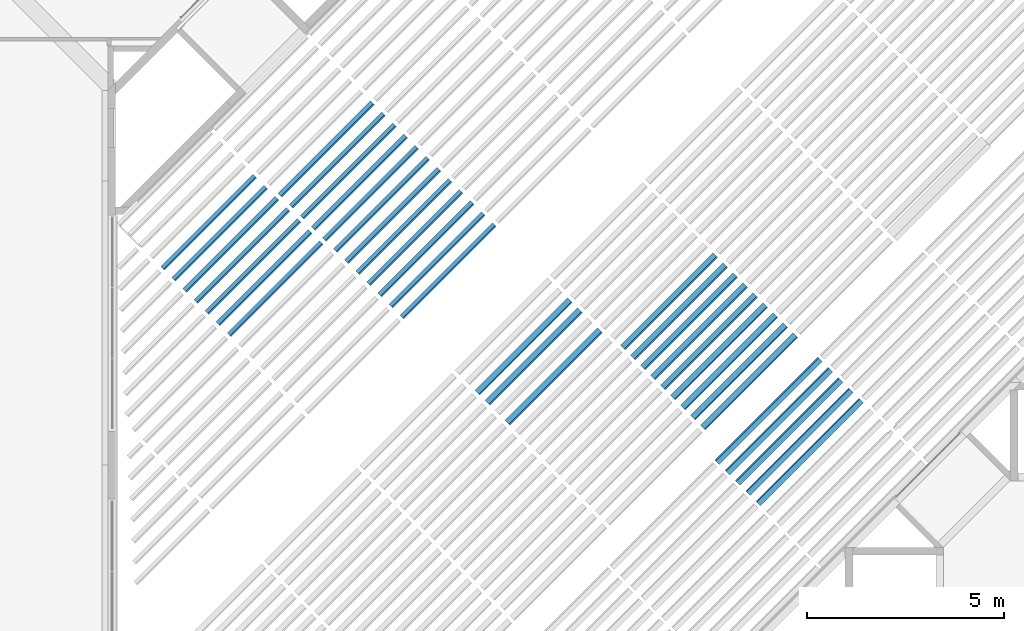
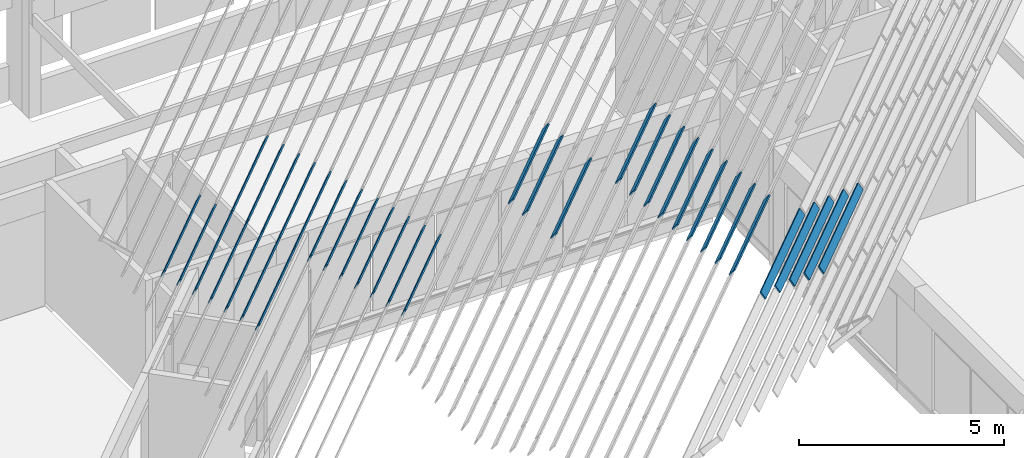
# One storey, part 6 of 37: 36 beams.
"""IFC4X3_ADD2 building model written with IfcOpenShell, lengths in millimetres."""

from ifc_helpers import new_model, si_unit, direction, frame, origin_with_axes, origin_2d_with_axis, place, context, subcontext, project, spatial, rectangle, extrude, source, transform, mapped, material, type_object, type_shapes, element, save


model = new_model("IFC4X3_ADD2")

# Units and contexts
model_context = context("Model", 3, precision=1e-05, world=origin_with_axes(), true_north=direction((0.0, 1.0)))
body_context = subcontext(model_context, "Body", "Model", "MODEL_VIEW")
ifc_project = project(units=[si_unit("LENGTHUNIT", "METRE", prefix="MILLI"), si_unit("AREAUNIT", "SQUARE_METRE"), si_unit("VOLUMEUNIT", "CUBIC_METRE"), si_unit("PLANEANGLEUNIT", "RADIAN"), si_unit("TIMEUNIT", "SECOND"), si_unit("MASSUNIT", "GRAM")], contexts=[model_context])

# Site, building, storey
site_placement = place(None, origin_with_axes())
site = spatial("IfcSite", under=ifc_project, at=site_placement, Name="Site", CompositionType="ELEMENT")
building_placement = place(site_placement, origin_with_axes())
building = spatial("IfcBuilding", under=site, at=building_placement, Name="IFC Building Story")
storey_placement = place(building_placement, frame((0.0, 0.0, 3600.0), z_axis=(0.0, 0.0, 1.0), x_axis=(1.0, 0.0, 0.0)))
storey = spatial("IfcBuildingStorey", under=building, at=storey_placement, Name="010", Elevation=3600.0)

# Beams
ifc_material = material(Name="GVH_i2_naaldhout_generiek")
beam_type_1 = type_object("IfcBeamType", Name="28_SF_hout_rechthoekig_40 x 230_45", PredefinedType="NOTDEFINED")
shared_shape_1 = source(origin_with_axes(), body_context, "Body", "SweptSolid", [
    extrude(rectangle(XDim=3317.28000002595, YDim=40.0000000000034, at=origin_2d_with_axis()), frame((0.8877196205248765, 0.0, -115.0), z_axis=(0.0, 0.0, 1.0), x_axis=(1.0, 0.0, 0.0)), (0.0, 0.0, 1.0), 230.0000000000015),
])
type_shapes(beam_type_1, [shared_shape_1])
beam_1_placement = place(storey_placement, frame((-34554.2999869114, 22473.6563628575, 15017.4992162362), z_axis=(0.311937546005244, -0.311937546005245, 0.8974351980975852), x_axis=(-0.7071067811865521, -0.707106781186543, 0.0)))
element("IfcBeam", 1, at=beam_1_placement, inside=storey, type_object=beam_type_1, material=ifc_material, Name="28_SF_hout_rechthoekig:40 x 230", ObjectType="40 x 230", PredefinedType="BEAM", context=body_context, shape_type="MappedRepresentation", body=[
    mapped(shared_shape_1, transform((0.0, 0.0, 0.0))),
])
beam_type_2 = type_object("IfcBeamType", Name="28_SF_hout_rechthoekig_40 x 230_47", PredefinedType="NOTDEFINED")
shared_shape_2 = source(origin_with_axes(), body_context, "Body", "SweptSolid", [
    extrude(rectangle(XDim=3317.28000002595, YDim=40.0000000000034, at=origin_2d_with_axis()), frame((0.8876332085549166, 0.0, -115.0), z_axis=(0.0, 0.0, 1.0), x_axis=(1.0, 0.0, 0.0)), (0.0, 0.0, 1.0), 230.0000000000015),
])
type_shapes(beam_type_2, [shared_shape_2])
beam_2_placement = place(storey_placement, frame((-34835.2931242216, 22754.6495001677, 15212.8388014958), z_axis=(0.311937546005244, -0.311937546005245, 0.8974351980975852), x_axis=(-0.7071067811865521, -0.707106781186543, 0.0)))
element("IfcBeam", 2, at=beam_2_placement, inside=storey, type_object=beam_type_2, material=ifc_material, Name="28_SF_hout_rechthoekig:40 x 230", ObjectType="40 x 230", PredefinedType="BEAM", context=body_context, shape_type="MappedRepresentation", body=[
    mapped(shared_shape_2, transform((0.0, 0.0, 0.0))),
])
beam_type_3 = type_object("IfcBeamType", Name="28_SF_hout_rechthoekig_40 x 230_49", PredefinedType="NOTDEFINED")
shared_shape_3 = source(origin_with_axes(), body_context, "Body", "SweptSolid", [
    extrude(rectangle(XDim=3317.28000002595, YDim=40.0000000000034, at=origin_2d_with_axis()), frame((0.8875467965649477, 0.0, -115.0), z_axis=(0.0, 0.0, 1.0), x_axis=(1.0, 0.0, 0.0)), (0.0, 0.0, 1.0), 230.0000000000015),
])
type_shapes(beam_type_3, [shared_shape_3])
beam_3_placement = place(storey_placement, frame((-35116.2862615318, 23035.6426374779, 15408.1783867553), z_axis=(0.311937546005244, -0.311937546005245, 0.8974351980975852), x_axis=(-0.7071067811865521, -0.707106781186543, 0.0)))
element("IfcBeam", 3, at=beam_3_placement, inside=storey, type_object=beam_type_3, material=ifc_material, Name="28_SF_hout_rechthoekig:40 x 230", ObjectType="40 x 230", PredefinedType="BEAM", context=body_context, shape_type="MappedRepresentation", body=[
    mapped(shared_shape_3, transform((0.0, 0.0, 0.0))),
])
beam_type_4 = type_object("IfcBeamType", Name="28_SF_hout_rechthoekig_40 x 230_51", PredefinedType="NOTDEFINED")
shared_shape_4 = source(origin_with_axes(), body_context, "Body", "SweptSolid", [
    extrude(rectangle(XDim=3317.28000002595, YDim=40.0000000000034, at=origin_2d_with_axis()), frame((0.8874603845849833, 0.0, -115.0), z_axis=(0.0, 0.0, 1.0), x_axis=(1.0, 0.0, 0.0)), (0.0, 0.0, 1.0), 230.0000000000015),
])
type_shapes(beam_type_4, [shared_shape_4])
beam_4_placement = place(storey_placement, frame((-35397.279398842, 23316.6357747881, 15603.5179720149), z_axis=(0.311937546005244, -0.311937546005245, 0.8974351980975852), x_axis=(-0.7071067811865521, -0.707106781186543, 0.0)))
element("IfcBeam", 4, at=beam_4_placement, inside=storey, type_object=beam_type_4, material=ifc_material, Name="28_SF_hout_rechthoekig:40 x 230", ObjectType="40 x 230", PredefinedType="BEAM", context=body_context, shape_type="MappedRepresentation", body=[
    mapped(shared_shape_4, transform((0.0, 0.0, 0.0))),
])
beam_type_5 = type_object("IfcBeamType", Name="28_SF_hout_rechthoekig_40 x 230_53", PredefinedType="NOTDEFINED")
shared_shape_5 = source(origin_with_axes(), body_context, "Body", "SweptSolid", [
    extrude(rectangle(XDim=3317.28000002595, YDim=40.0000000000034, at=origin_2d_with_axis()), frame((0.8873739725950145, 0.0, -115.0), z_axis=(0.0, 0.0, 1.0), x_axis=(1.0, 0.0, 0.0)), (0.0, 0.0, 1.0), 230.0000000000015),
])
type_shapes(beam_type_5, [shared_shape_5])
beam_5_placement = place(storey_placement, frame((-35678.2725361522, 23597.6289120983, 15798.8575572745), z_axis=(0.311937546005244, -0.311937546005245, 0.8974351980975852), x_axis=(-0.7071067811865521, -0.707106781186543, 0.0)))
element("IfcBeam", 5, at=beam_5_placement, inside=storey, type_object=beam_type_5, material=ifc_material, Name="28_SF_hout_rechthoekig:40 x 230", ObjectType="40 x 230", PredefinedType="BEAM", context=body_context, shape_type="MappedRepresentation", body=[
    mapped(shared_shape_5, transform((0.0, 0.0, 0.0))),
])
beam_type_6 = type_object("IfcBeamType", Name="28_SF_hout_rechthoekig_40 x 230_55", PredefinedType="NOTDEFINED")
shared_shape_6 = source(origin_with_axes(), body_context, "Body", "SweptSolid", [
    extrude(rectangle(XDim=3317.28000002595, YDim=40.0000000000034, at=origin_2d_with_axis()), frame((0.8872875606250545, 0.0, -115.0), z_axis=(0.0, 0.0, 1.0), x_axis=(1.0, 0.0, 0.0)), (0.0, 0.0, 1.0), 230.0000000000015),
])
type_shapes(beam_type_6, [shared_shape_6])
beam_6_placement = place(storey_placement, frame((-35959.2656734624, 23878.6220494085, 15994.197142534), z_axis=(0.311937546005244, -0.311937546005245, 0.8974351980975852), x_axis=(-0.7071067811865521, -0.707106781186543, 0.0)))
element("IfcBeam", 6, at=beam_6_placement, inside=storey, type_object=beam_type_6, material=ifc_material, Name="28_SF_hout_rechthoekig:40 x 230", ObjectType="40 x 230", PredefinedType="BEAM", context=body_context, shape_type="MappedRepresentation", body=[
    mapped(shared_shape_6, transform((0.0, 0.0, 0.0))),
])
beam_type_7 = type_object("IfcBeamType", Name="28_SF_hout_rechthoekig_40 x 230_57", PredefinedType="NOTDEFINED")
shared_shape_7 = source(origin_with_axes(), body_context, "Body", "SweptSolid", [
    extrude(rectangle(XDim=3317.28000002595, YDim=40.0000000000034, at=origin_2d_with_axis()), frame((0.8872011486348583, 0.0, -115.0), z_axis=(0.0, 0.0, 1.0), x_axis=(1.0, 0.0, 0.0)), (0.0, 0.0, 1.0), 230.0000000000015),
])
type_shapes(beam_type_7, [shared_shape_7])
beam_7_placement = place(storey_placement, frame((-36240.2588107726, 24159.6151867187, 16189.5367277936), z_axis=(0.311937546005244, -0.311937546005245, 0.8974351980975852), x_axis=(-0.7071067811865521, -0.707106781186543, 0.0)))
element("IfcBeam", 7, at=beam_7_placement, inside=storey, type_object=beam_type_7, material=ifc_material, Name="28_SF_hout_rechthoekig:40 x 230", ObjectType="40 x 230", PredefinedType="BEAM", context=body_context, shape_type="MappedRepresentation", body=[
    mapped(shared_shape_7, transform((0.0, 0.0, 0.0))),
])
beam_type_8 = type_object("IfcBeamType", Name="28_SF_hout_rechthoekig_40 x 230_65", PredefinedType="NOTDEFINED")
shared_shape_8 = source(origin_with_axes(), body_context, "Body", "SweptSolid", [
    extrude(rectangle(XDim=3317.26999997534, YDim=40.0000000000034, at=origin_2d_with_axis()), frame((0.8933245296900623, 0.0, -115.0), z_axis=(0.0, 0.0, 1.0), x_axis=(1.0, 0.0, 0.0)), (0.0, 0.0, 1.0), 229.9999999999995),
])
type_shapes(beam_type_8, [shared_shape_8])
beam_8_placement = place(storey_placement, frame((-30170.9661645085, 22923.0862629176, 13650.1221194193), z_axis=(0.311937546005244, -0.311937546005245, 0.8974351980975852), x_axis=(-0.7071067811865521, -0.707106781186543, 0.0)))
element("IfcBeam", 8, at=beam_8_placement, inside=storey, type_object=beam_type_8, material=ifc_material, Name="28_SF_hout_rechthoekig:40 x 230", ObjectType="40 x 230", PredefinedType="BEAM", context=body_context, shape_type="MappedRepresentation", body=[
    mapped(shared_shape_8, transform((0.0, 0.0, 0.0))),
])
beam_type_9 = type_object("IfcBeamType", Name="28_SF_hout_rechthoekig_40 x 230_67", PredefinedType="NOTDEFINED")
shared_shape_9 = source(origin_with_axes(), body_context, "Body", "SweptSolid", [
    extrude(rectangle(XDim=3317.26999997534, YDim=40.0000000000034, at=origin_2d_with_axis()), frame((0.893238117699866, 0.0, -115.0), z_axis=(0.0, 0.0, 1.0), x_axis=(1.0, 0.0, 0.0)), (0.0, 0.0, 1.0), 229.9999999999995),
])
type_shapes(beam_type_9, [shared_shape_9])
beam_9_placement = place(storey_placement, frame((-30451.9593018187, 23204.0794002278, 13845.4617046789), z_axis=(0.311937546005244, -0.311937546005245, 0.8974351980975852), x_axis=(-0.7071067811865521, -0.707106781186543, 0.0)))
element("IfcBeam", 9, at=beam_9_placement, inside=storey, type_object=beam_type_9, material=ifc_material, Name="28_SF_hout_rechthoekig:40 x 230", ObjectType="40 x 230", PredefinedType="BEAM", context=body_context, shape_type="MappedRepresentation", body=[
    mapped(shared_shape_9, transform((0.0, 0.0, 0.0))),
])
beam_type_10 = type_object("IfcBeamType", Name="28_SF_hout_rechthoekig_40 x 230_69", PredefinedType="NOTDEFINED")
shared_shape_10 = source(origin_with_axes(), body_context, "Body", "SweptSolid", [
    extrude(rectangle(XDim=3317.26999997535, YDim=40.0000000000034, at=origin_2d_with_axis()), frame((0.8931517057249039, 0.0, -115.0), z_axis=(0.0, 0.0, 1.0), x_axis=(1.0, 0.0, 0.0)), (0.0, 0.0, 1.0), 229.9999999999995),
])
type_shapes(beam_type_10, [shared_shape_10])
beam_10_placement = place(storey_placement, frame((-30732.9524391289, 23485.072537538, 14040.8012899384), z_axis=(0.311937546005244, -0.311937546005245, 0.8974351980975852), x_axis=(-0.7071067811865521, -0.707106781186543, 0.0)))
element("IfcBeam", 10, at=beam_10_placement, inside=storey, type_object=beam_type_10, material=ifc_material, Name="28_SF_hout_rechthoekig:40 x 230", ObjectType="40 x 230", PredefinedType="BEAM", context=body_context, shape_type="MappedRepresentation", body=[
    mapped(shared_shape_10, transform((0.0, 0.0, 0.0))),
])
beam_type_11 = type_object("IfcBeamType", Name="28_SF_hout_rechthoekig_40 x 230_71", PredefinedType="NOTDEFINED")
shared_shape_11 = source(origin_with_axes(), body_context, "Body", "SweptSolid", [
    extrude(rectangle(XDim=3317.26999997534, YDim=40.0000000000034, at=origin_2d_with_axis()), frame((0.8930652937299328, 0.0, -115.0), z_axis=(0.0, 0.0, 1.0), x_axis=(1.0, 0.0, 0.0)), (0.0, 0.0, 1.0), 229.9999999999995),
])
type_shapes(beam_type_11, [shared_shape_11])
beam_11_placement = place(storey_placement, frame((-31013.9455764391, 23766.0656748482, 14236.140875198), z_axis=(0.311937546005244, -0.311937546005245, 0.8974351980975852), x_axis=(-0.7071067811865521, -0.707106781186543, 0.0)))
element("IfcBeam", 11, at=beam_11_placement, inside=storey, type_object=beam_type_11, material=ifc_material, Name="28_SF_hout_rechthoekig:40 x 230", ObjectType="40 x 230", PredefinedType="BEAM", context=body_context, shape_type="MappedRepresentation", body=[
    mapped(shared_shape_11, transform((0.0, 0.0, 0.0))),
])
beam_type_12 = type_object("IfcBeamType", Name="28_SF_hout_rechthoekig_40 x 230_73", PredefinedType="NOTDEFINED")
shared_shape_12 = source(origin_with_axes(), body_context, "Body", "SweptSolid", [
    extrude(rectangle(XDim=3317.26999997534, YDim=40.0000000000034, at=origin_2d_with_axis()), frame((0.8929788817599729, 0.0, -115.0), z_axis=(0.0, 0.0, 1.0), x_axis=(1.0, 0.0, 0.0)), (0.0, 0.0, 1.0), 229.9999999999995),
])
type_shapes(beam_type_12, [shared_shape_12])
beam_12_placement = place(storey_placement, frame((-31294.9387137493, 24047.0588121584, 14431.4804604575), z_axis=(0.311937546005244, -0.311937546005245, 0.8974351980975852), x_axis=(-0.7071067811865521, -0.707106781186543, 0.0)))
element("IfcBeam", 12, at=beam_12_placement, inside=storey, type_object=beam_type_12, material=ifc_material, Name="28_SF_hout_rechthoekig:40 x 230", ObjectType="40 x 230", PredefinedType="BEAM", context=body_context, shape_type="MappedRepresentation", body=[
    mapped(shared_shape_12, transform((0.0, 0.0, 0.0))),
])
beam_type_13 = type_object("IfcBeamType", Name="28_SF_hout_rechthoekig_40 x 230_75", PredefinedType="NOTDEFINED")
shared_shape_13 = source(origin_with_axes(), body_context, "Body", "SweptSolid", [
    extrude(rectangle(XDim=3317.26999997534, YDim=40.0000000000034, at=origin_2d_with_axis()), frame((0.892892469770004, 0.0, -115.0), z_axis=(0.0, 0.0, 1.0), x_axis=(1.0, 0.0, 0.0)), (0.0, 0.0, 1.0), 229.9999999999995),
])
type_shapes(beam_type_13, [shared_shape_13])
beam_13_placement = place(storey_placement, frame((-31575.9318510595, 24328.0519494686, 14626.8200457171), z_axis=(0.311937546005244, -0.311937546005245, 0.8974351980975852), x_axis=(-0.7071067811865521, -0.707106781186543, 0.0)))
element("IfcBeam", 13, at=beam_13_placement, inside=storey, type_object=beam_type_13, material=ifc_material, Name="28_SF_hout_rechthoekig:40 x 230", ObjectType="40 x 230", PredefinedType="BEAM", context=body_context, shape_type="MappedRepresentation", body=[
    mapped(shared_shape_13, transform((0.0, 0.0, 0.0))),
])
beam_type_14 = type_object("IfcBeamType", Name="28_SF_hout_rechthoekig_40 x 230_77", PredefinedType="NOTDEFINED")
shared_shape_14 = source(origin_with_axes(), body_context, "Body", "SweptSolid", [
    extrude(rectangle(XDim=3317.26999997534, YDim=40.0000000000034, at=origin_2d_with_axis()), frame((0.8928060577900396, 0.0, -115.0), z_axis=(0.0, 0.0, 1.0), x_axis=(1.0, 0.0, 0.0)), (0.0, 0.0, 1.0), 229.9999999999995),
])
type_shapes(beam_type_14, [shared_shape_14])
beam_14_placement = place(storey_placement, frame((-31856.9249883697, 24609.0450867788, 14822.1596309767), z_axis=(0.311937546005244, -0.311937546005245, 0.8974351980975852), x_axis=(-0.7071067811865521, -0.707106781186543, 0.0)))
element("IfcBeam", 14, at=beam_14_placement, inside=storey, type_object=beam_type_14, material=ifc_material, Name="28_SF_hout_rechthoekig:40 x 230", ObjectType="40 x 230", PredefinedType="BEAM", context=body_context, shape_type="MappedRepresentation", body=[
    mapped(shared_shape_14, transform((0.0, 0.0, 0.0))),
])
beam_type_15 = type_object("IfcBeamType", Name="28_SF_hout_rechthoekig_40 x 230_79", PredefinedType="NOTDEFINED")
shared_shape_15 = source(origin_with_axes(), body_context, "Body", "SweptSolid", [
    extrude(rectangle(XDim=3317.26999997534, YDim=40.0000000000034, at=origin_2d_with_axis()), frame((0.8927196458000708, 0.0, -115.0), z_axis=(0.0, 0.0, 1.0), x_axis=(1.0, 0.0, 0.0)), (0.0, 0.0, 1.0), 229.9999999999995),
])
type_shapes(beam_type_15, [shared_shape_15])
beam_15_placement = place(storey_placement, frame((-32137.9181256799, 24890.038224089, 15017.4992162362), z_axis=(0.311937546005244, -0.311937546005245, 0.8974351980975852), x_axis=(-0.7071067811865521, -0.707106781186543, 0.0)))
element("IfcBeam", 15, at=beam_15_placement, inside=storey, type_object=beam_type_15, material=ifc_material, Name="28_SF_hout_rechthoekig:40 x 230", ObjectType="40 x 230", PredefinedType="BEAM", context=body_context, shape_type="MappedRepresentation", body=[
    mapped(shared_shape_15, transform((0.0, 0.0, 0.0))),
])
beam_type_16 = type_object("IfcBeamType", Name="28_SF_hout_rechthoekig_40 x 230_81", PredefinedType="NOTDEFINED")
shared_shape_16 = source(origin_with_axes(), body_context, "Body", "SweptSolid", [
    extrude(rectangle(XDim=3317.26999997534, YDim=40.0000000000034, at=origin_2d_with_axis()), frame((0.8926332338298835, 0.0, -115.0), z_axis=(0.0, 0.0, 1.0), x_axis=(1.0, 0.0, 0.0)), (0.0, 0.0, 1.0), 229.9999999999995),
])
type_shapes(beam_type_16, [shared_shape_16])
beam_16_placement = place(storey_placement, frame((-32418.9112629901, 25171.0313613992, 15212.8388014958), z_axis=(0.311937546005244, -0.311937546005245, 0.8974351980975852), x_axis=(-0.7071067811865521, -0.707106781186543, 0.0)))
element("IfcBeam", 16, at=beam_16_placement, inside=storey, type_object=beam_type_16, material=ifc_material, Name="28_SF_hout_rechthoekig:40 x 230", ObjectType="40 x 230", PredefinedType="BEAM", context=body_context, shape_type="MappedRepresentation", body=[
    mapped(shared_shape_16, transform((0.0, 0.0, 0.0))),
])
beam_type_17 = type_object("IfcBeamType", Name="28_SF_hout_rechthoekig_40 x 230_83", PredefinedType="NOTDEFINED")
shared_shape_17 = source(origin_with_axes(), body_context, "Body", "SweptSolid", [
    extrude(rectangle(XDim=3317.26999997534, YDim=40.0000000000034, at=origin_2d_with_axis()), frame((0.8925468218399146, 0.0, -115.0), z_axis=(0.0, 0.0, 1.0), x_axis=(1.0, 0.0, 0.0)), (0.0, 0.0, 1.0), 230.0),
])
type_shapes(beam_type_17, [shared_shape_17])
beam_17_placement = place(storey_placement, frame((-32699.9044003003, 25452.0244987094, 15408.1783867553), z_axis=(0.311937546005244, -0.311937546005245, 0.8974351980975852), x_axis=(-0.7071067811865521, -0.707106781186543, 0.0)))
element("IfcBeam", 17, at=beam_17_placement, inside=storey, type_object=beam_type_17, material=ifc_material, Name="28_SF_hout_rechthoekig:40 x 230", ObjectType="40 x 230", PredefinedType="BEAM", context=body_context, shape_type="MappedRepresentation", body=[
    mapped(shared_shape_17, transform((0.0, 0.0, 0.0))),
])
beam_type_18 = type_object("IfcBeamType", Name="28_SF_hout_rechthoekig_40 x 230_85", PredefinedType="NOTDEFINED")
shared_shape_18 = source(origin_with_axes(), body_context, "Body", "SweptSolid", [
    extrude(rectangle(XDim=3317.26999997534, YDim=40.0000000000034, at=origin_2d_with_axis()), frame((0.8924604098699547, 0.0, -115.0), z_axis=(0.0, 0.0, 1.0), x_axis=(1.0, 0.0, 0.0)), (0.0, 0.0, 1.0), 230.0),
])
type_shapes(beam_type_18, [shared_shape_18])
beam_18_placement = place(storey_placement, frame((-32980.8975376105, 25733.0176360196, 15603.5179720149), z_axis=(0.311937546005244, -0.311937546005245, 0.8974351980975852), x_axis=(-0.7071067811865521, -0.707106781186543, 0.0)))
element("IfcBeam", 18, at=beam_18_placement, inside=storey, type_object=beam_type_18, material=ifc_material, Name="28_SF_hout_rechthoekig:40 x 230", ObjectType="40 x 230", PredefinedType="BEAM", context=body_context, shape_type="MappedRepresentation", body=[
    mapped(shared_shape_18, transform((0.0, 0.0, 0.0))),
])
beam_type_19 = type_object("IfcBeamType", Name="28_SF_hout_rechthoekig_40 x 230_87", PredefinedType="NOTDEFINED")
shared_shape_19 = source(origin_with_axes(), body_context, "Body", "SweptSolid", [
    extrude(rectangle(XDim=3317.26999997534, YDim=40.0000000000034, at=origin_2d_with_axis()), frame((0.8923739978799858, 0.0, -115.0), z_axis=(0.0, 0.0, 1.0), x_axis=(1.0, 0.0, 0.0)), (0.0, 0.0, 1.0), 230.0000000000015),
])
type_shapes(beam_type_19, [shared_shape_19])
beam_19_placement = place(storey_placement, frame((-33261.8906749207, 26014.0107733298, 15798.8575572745), z_axis=(0.311937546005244, -0.311937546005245, 0.8974351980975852), x_axis=(-0.7071067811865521, -0.707106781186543, 0.0)))
element("IfcBeam", 19, at=beam_19_placement, inside=storey, type_object=beam_type_19, material=ifc_material, Name="28_SF_hout_rechthoekig:40 x 230", ObjectType="40 x 230", PredefinedType="BEAM", context=body_context, shape_type="MappedRepresentation", body=[
    mapped(shared_shape_19, transform((0.0, 0.0, 0.0))),
])
beam_type_20 = type_object("IfcBeamType", Name="28_SF_hout_rechthoekig_40 x 230_357", PredefinedType="NOTDEFINED")
shared_shape_20 = source(origin_with_axes(), body_context, "Body", "SweptSolid", [
    extrude(rectangle(XDim=3317.27999989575, YDim=40.0000000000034, at=origin_2d_with_axis()), frame((-38.64300612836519, 0.0, -115.0), z_axis=(0.0, 0.0, 1.0), x_axis=(1.0, 0.0, 0.0)), (0.0, 0.0, 1.0), 229.9999999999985),
])
type_shapes(beam_type_20, [shared_shape_20])
beam_20_placement = place(storey_placement, frame((-27519.6477443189, 20215.857173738, 16624.9908502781), z_axis=(0.4307932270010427, -0.4307932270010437, 0.7929907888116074), x_axis=(-0.7071067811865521, -0.707106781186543, 0.0)))
element("IfcBeam", 20, at=beam_20_placement, inside=storey, type_object=beam_type_20, material=ifc_material, Name="28_SF_hout_rechthoekig:40 x 230", ObjectType="40 x 230", PredefinedType="BEAM", context=body_context, shape_type="MappedRepresentation", body=[
    mapped(shared_shape_20, transform((0.0, 0.0, 0.0))),
])
beam_type_21 = type_object("IfcBeamType", Name="28_SF_hout_rechthoekig_40 x 230_361", PredefinedType="NOTDEFINED")
shared_shape_21 = source(origin_with_axes(), body_context, "Body", "SweptSolid", [
    extrude(rectangle(XDim=3317.27999987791, YDim=40.0000000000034, at=origin_2d_with_axis()), frame((-38.64290398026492, 0.0, -115.0), z_axis=(0.0, 0.0, 1.0), x_axis=(1.0, 0.0, 0.0)), (0.0, 0.0, 1.0), 229.999999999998),
])
type_shapes(beam_type_21, [shared_shape_21])
beam_21_placement = place(storey_placement, frame((-28027.6683670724, 20723.8777964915, 17176.9565138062), z_axis=(0.4307932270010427, -0.4307932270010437, 0.7929907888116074), x_axis=(-0.7071067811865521, -0.707106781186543, 0.0)))
element("IfcBeam", 21, at=beam_21_placement, inside=storey, type_object=beam_type_21, material=ifc_material, Name="28_SF_hout_rechthoekig:40 x 230", ObjectType="40 x 230", PredefinedType="BEAM", context=body_context, shape_type="MappedRepresentation", body=[
    mapped(shared_shape_21, transform((0.0, 0.0, 0.0))),
])
beam_type_22 = type_object("IfcBeamType", Name="28_SF_hout_rechthoekig_40 x 230_363", PredefinedType="NOTDEFINED")
shared_shape_22 = source(origin_with_axes(), body_context, "Body", "SweptSolid", [
    extrude(rectangle(XDim=3317.279999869, YDim=40.0000000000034, at=origin_2d_with_axis()), frame((-38.64285290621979, 0.0, -115.0), z_axis=(0.0, 0.0, 1.0), x_axis=(1.0, 0.0, 0.0)), (0.0, 0.0, 1.0), 229.999999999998),
])
type_shapes(beam_type_22, [shared_shape_22])
beam_22_placement = place(storey_placement, frame((-28281.6786784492, 20977.8881078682, 17452.9393455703), z_axis=(0.4307932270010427, -0.4307932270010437, 0.7929907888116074), x_axis=(-0.7071067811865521, -0.707106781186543, 0.0)))
element("IfcBeam", 22, at=beam_22_placement, inside=storey, type_object=beam_type_22, material=ifc_material, Name="28_SF_hout_rechthoekig:40 x 230", ObjectType="40 x 230", PredefinedType="BEAM", context=body_context, shape_type="MappedRepresentation", body=[
    mapped(shared_shape_22, transform((0.0, 0.0, 0.0))),
])
beam_type_23 = type_object("IfcBeamType", Name="28_SF_hout_rechthoekig_40 x 230_369", PredefinedType="NOTDEFINED")
shared_shape_23 = source(origin_with_axes(), body_context, "Body", "SweptSolid", [
    extrude(rectangle(XDim=3317.28000000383, YDim=40.0000000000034, at=origin_2d_with_axis()), frame((-36.48335763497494, 0.0, -115.0), z_axis=(0.0, 0.0, 1.0), x_axis=(1.0, 0.0, 0.0)), (0.0, 0.0, 1.0), 229.9999999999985),
])
type_shapes(beam_type_23, [shared_shape_23])
beam_23_placement = place(storey_placement, frame((-22561.6353060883, 20093.6633844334, 13865.1625326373), z_axis=(0.4307932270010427, -0.4307932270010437, 0.7929907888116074), x_axis=(-0.7071067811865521, -0.707106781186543, 0.0)))
element("IfcBeam", 23, at=beam_23_placement, inside=storey, type_object=beam_type_23, material=ifc_material, Name="28_SF_hout_rechthoekig:40 x 230", ObjectType="40 x 230", PredefinedType="BEAM", context=body_context, shape_type="MappedRepresentation", body=[
    mapped(shared_shape_23, transform((0.0, 0.0, 0.0))),
])
beam_type_24 = type_object("IfcBeamType", Name="28_SF_hout_rechthoekig_40 x 230_371", PredefinedType="NOTDEFINED")
shared_shape_24 = source(origin_with_axes(), body_context, "Body", "SweptSolid", [
    extrude(rectangle(XDim=3317.28000000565, YDim=40.0000000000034, at=origin_2d_with_axis()), frame((-36.48330656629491, 0.0, -115.0), z_axis=(0.0, 0.0, 1.0), x_axis=(1.0, 0.0, 0.0)), (0.0, 0.0, 1.0), 229.9999999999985),
])
type_shapes(beam_type_24, [shared_shape_24])
beam_24_placement = place(storey_placement, frame((-22815.6456174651, 20347.6736958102, 14141.1453644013), z_axis=(0.4307932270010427, -0.4307932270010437, 0.7929907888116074), x_axis=(-0.7071067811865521, -0.707106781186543, 0.0)))
element("IfcBeam", 24, at=beam_24_placement, inside=storey, type_object=beam_type_24, material=ifc_material, Name="28_SF_hout_rechthoekig:40 x 230", ObjectType="40 x 230", PredefinedType="BEAM", context=body_context, shape_type="MappedRepresentation", body=[
    mapped(shared_shape_24, transform((0.0, 0.0, 0.0))),
])
beam_type_25 = type_object("IfcBeamType", Name="28_SF_hout_rechthoekig_40 x 230_373", PredefinedType="NOTDEFINED")
shared_shape_25 = source(origin_with_axes(), body_context, "Body", "SweptSolid", [
    extrude(rectangle(XDim=3317.28000000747, YDim=40.0000000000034, at=origin_2d_with_axis()), frame((-36.48325549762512, 0.0, -115.0), z_axis=(0.0, 0.0, 1.0), x_axis=(1.0, 0.0, 0.0)), (0.0, 0.0, 1.0), 229.9999999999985),
])
type_shapes(beam_type_25, [shared_shape_25])
beam_25_placement = place(storey_placement, frame((-23069.6559288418, 20601.6840071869, 14417.1281961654), z_axis=(0.4307932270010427, -0.4307932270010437, 0.7929907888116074), x_axis=(-0.7071067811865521, -0.707106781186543, 0.0)))
element("IfcBeam", 25, at=beam_25_placement, inside=storey, type_object=beam_type_25, material=ifc_material, Name="28_SF_hout_rechthoekig:40 x 230", ObjectType="40 x 230", PredefinedType="BEAM", context=body_context, shape_type="MappedRepresentation", body=[
    mapped(shared_shape_25, transform((0.0, 0.0, 0.0))),
])
beam_type_26 = type_object("IfcBeamType", Name="28_SF_hout_rechthoekig_40 x 230_375", PredefinedType="NOTDEFINED")
shared_shape_26 = source(origin_with_axes(), body_context, "Body", "SweptSolid", [
    extrude(rectangle(XDim=3317.2800000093, YDim=40.0000000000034, at=origin_2d_with_axis()), frame((-36.4832044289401, 0.0, -115.0), z_axis=(0.0, 0.0, 1.0), x_axis=(1.0, 0.0, 0.0)), (0.0, 0.0, 1.0), 229.999999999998),
])
type_shapes(beam_type_26, [shared_shape_26])
beam_26_placement = place(storey_placement, frame((-23323.6662402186, 20855.6943185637, 14693.1110279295), z_axis=(0.4307932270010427, -0.4307932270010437, 0.7929907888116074), x_axis=(-0.7071067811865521, -0.707106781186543, 0.0)))
element("IfcBeam", 26, at=beam_26_placement, inside=storey, type_object=beam_type_26, material=ifc_material, Name="28_SF_hout_rechthoekig:40 x 230", ObjectType="40 x 230", PredefinedType="BEAM", context=body_context, shape_type="MappedRepresentation", body=[
    mapped(shared_shape_26, transform((0.0, 0.0, 0.0))),
])
beam_type_27 = type_object("IfcBeamType", Name="28_SF_hout_rechthoekig_40 x 230_377", PredefinedType="NOTDEFINED")
shared_shape_27 = source(origin_with_axes(), body_context, "Body", "SweptSolid", [
    extrude(rectangle(XDim=3317.28000001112, YDim=40.0000000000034, at=origin_2d_with_axis()), frame((-36.48315336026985, 0.0, -115.0), z_axis=(0.0, 0.0, 1.0), x_axis=(1.0, 0.0, 0.0)), (0.0, 0.0, 1.0), 229.999999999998),
])
type_shapes(beam_type_27, [shared_shape_27])
beam_27_placement = place(storey_placement, frame((-23577.6765515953, 21109.7046299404, 14969.0938596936), z_axis=(0.4307932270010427, -0.4307932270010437, 0.7929907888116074), x_axis=(-0.7071067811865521, -0.707106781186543, 0.0)))
element("IfcBeam", 27, at=beam_27_placement, inside=storey, type_object=beam_type_27, material=ifc_material, Name="28_SF_hout_rechthoekig:40 x 230", ObjectType="40 x 230", PredefinedType="BEAM", context=body_context, shape_type="MappedRepresentation", body=[
    mapped(shared_shape_27, transform((0.0, 0.0, 0.0))),
])
beam_type_28 = type_object("IfcBeamType", Name="28_SF_hout_rechthoekig_40 x 230_379", PredefinedType="NOTDEFINED")
shared_shape_28 = source(origin_with_axes(), body_context, "Body", "SweptSolid", [
    extrude(rectangle(XDim=3317.28000001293, YDim=40.0000000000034, at=origin_2d_with_axis()), frame((-36.48310229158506, 0.0, -115.0), z_axis=(0.0, 0.0, 1.0), x_axis=(1.0, 0.0, 0.0)), (0.0, 0.0, 1.0), 230.0),
])
type_shapes(beam_type_28, [shared_shape_28])
beam_28_placement = place(storey_placement, frame((-23831.6868629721, 21363.7149413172, 15245.0766914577), z_axis=(0.4307932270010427, -0.4307932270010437, 0.7929907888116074), x_axis=(-0.7071067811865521, -0.707106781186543, 0.0)))
element("IfcBeam", 28, at=beam_28_placement, inside=storey, type_object=beam_type_28, material=ifc_material, Name="28_SF_hout_rechthoekig:40 x 230", ObjectType="40 x 230", PredefinedType="BEAM", context=body_context, shape_type="MappedRepresentation", body=[
    mapped(shared_shape_28, transform((0.0, 0.0, 0.0))),
])
beam_type_29 = type_object("IfcBeamType", Name="28_SF_hout_rechthoekig_40 x 230_381", PredefinedType="NOTDEFINED")
shared_shape_29 = source(origin_with_axes(), body_context, "Body", "SweptSolid", [
    extrude(rectangle(XDim=3317.28000001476, YDim=40.0000000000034, at=origin_2d_with_axis()), frame((-36.48305122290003, 0.0, -115.0), z_axis=(0.0, 0.0, 1.0), x_axis=(1.0, 0.0, 0.0)), (0.0, 0.0, 1.0), 230.0),
])
type_shapes(beam_type_29, [shared_shape_29])
beam_29_placement = place(storey_placement, frame((-24085.6971743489, 21617.7252526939, 15521.0595232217), z_axis=(0.4307932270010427, -0.4307932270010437, 0.7929907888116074), x_axis=(-0.7071067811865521, -0.707106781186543, 0.0)))
element("IfcBeam", 29, at=beam_29_placement, inside=storey, type_object=beam_type_29, material=ifc_material, Name="28_SF_hout_rechthoekig:40 x 230", ObjectType="40 x 230", PredefinedType="BEAM", context=body_context, shape_type="MappedRepresentation", body=[
    mapped(shared_shape_29, transform((0.0, 0.0, 0.0))),
])
beam_type_30 = type_object("IfcBeamType", Name="28_SF_hout_rechthoekig_40 x 230_383", PredefinedType="NOTDEFINED")
shared_shape_30 = source(origin_with_axes(), body_context, "Body", "SweptSolid", [
    extrude(rectangle(XDim=3317.28000001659, YDim=40.0000000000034, at=origin_2d_with_axis()), frame((-36.48300015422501, 0.0, -115.0), z_axis=(0.0, 0.0, 1.0), x_axis=(1.0, 0.0, 0.0)), (0.0, 0.0, 1.0), 230.0),
])
type_shapes(beam_type_30, [shared_shape_30])
beam_30_placement = place(storey_placement, frame((-24339.7074857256, 21871.7355640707, 15797.0423549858), z_axis=(0.4307932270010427, -0.4307932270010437, 0.7929907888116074), x_axis=(-0.7071067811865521, -0.707106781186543, 0.0)))
element("IfcBeam", 30, at=beam_30_placement, inside=storey, type_object=beam_type_30, material=ifc_material, Name="28_SF_hout_rechthoekig:40 x 230", ObjectType="40 x 230", PredefinedType="BEAM", context=body_context, shape_type="MappedRepresentation", body=[
    mapped(shared_shape_30, transform((0.0, 0.0, 0.0))),
])
beam_type_31 = type_object("IfcBeamType", Name="28_SF_hout_rechthoekig_40 x 230_385", PredefinedType="NOTDEFINED")
shared_shape_31 = source(origin_with_axes(), body_context, "Body", "SweptSolid", [
    extrude(rectangle(XDim=3317.28000001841, YDim=40.0000000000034, at=origin_2d_with_axis()), frame((-36.48294908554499, 0.0, -115.0), z_axis=(0.0, 0.0, 1.0), x_axis=(1.0, 0.0, 0.0)), (0.0, 0.0, 1.0), 230.0),
])
type_shapes(beam_type_31, [shared_shape_31])
beam_31_placement = place(storey_placement, frame((-24593.7177971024, 22125.7458754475, 16073.0251867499), z_axis=(0.4307932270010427, -0.4307932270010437, 0.7929907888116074), x_axis=(-0.7071067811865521, -0.707106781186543, 0.0)))
element("IfcBeam", 31, at=beam_31_placement, inside=storey, type_object=beam_type_31, material=ifc_material, Name="28_SF_hout_rechthoekig:40 x 230", ObjectType="40 x 230", PredefinedType="BEAM", context=body_context, shape_type="MappedRepresentation", body=[
    mapped(shared_shape_31, transform((0.0, 0.0, 0.0))),
])
beam_type_32 = type_object("IfcBeamType", Name="28_SF_hout_rechthoekig_40 x 230_621", PredefinedType="NOTDEFINED")
shared_shape_32 = source(origin_with_axes(), body_context, "Body", "SweptSolid", [
    extrude(rectangle(XDim=3689.9999999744, YDim=40.0000000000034, at=origin_2d_with_axis()), frame((146.2715354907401, 0.0, -115.0), z_axis=(0.0, 0.0, 1.0), x_axis=(1.0, 0.0, 0.0)), (0.0, 0.0, 1.0), 230.0),
])
type_shapes(beam_type_32, [shared_shape_32])
for number, where, z_axis, x_axis, name in (
    (32, (-22145.1292751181, 19272.2746175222, 13583.9665129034), (-0.403406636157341, 0.4034078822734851, 0.8212948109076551), (0.7071078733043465, 0.7071056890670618, 0.0), "28_SF_hout_rechthoekig:40 x 230"),
    (33, (-21884.3760124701, 19011.5205494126, 13840.1228165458), (-0.403406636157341, 0.4034078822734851, 0.8212948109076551), (0.7071078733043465, 0.7071056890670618, 0.0), "28_SF_hout_rechthoekig:40 x 230"),
    (34, (-21623.6227498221, 18750.7664813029, 14096.2791201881), (-0.403406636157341, 0.4034078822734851, 0.8212948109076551), (0.7071078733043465, 0.7071056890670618, 0.0), "28_SF_hout_rechthoekig:40 x 230"),
    (35, (-21362.869487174, 18490.0124131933, 14352.4354238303), (-0.403406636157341, 0.4034078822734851, 0.8212948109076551), (0.7071078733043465, 0.7071056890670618, 0.0), "28_SF_hout_rechthoekig:40 x 230"),
    (36, (-21102.116224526, 18229.2583450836, 14608.5917274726), (-0.403406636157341, 0.4034078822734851, 0.8212948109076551), (0.7071078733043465, 0.7071056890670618, 0.0), "28_SF_hout_rechthoekig:40 x 230"),
):
    element("IfcBeam", number, at=place(storey_placement, frame(where, z_axis=z_axis, x_axis=x_axis)), inside=storey, type_object=beam_type_32, material=ifc_material, Name=name, ObjectType="40 x 230", PredefinedType="BEAM", context=body_context, shape_type="MappedRepresentation", body=[
        mapped(shared_shape_32, transform((0.0, 0.0, 0.0))),
    ])

save(model, "model.ifc")
